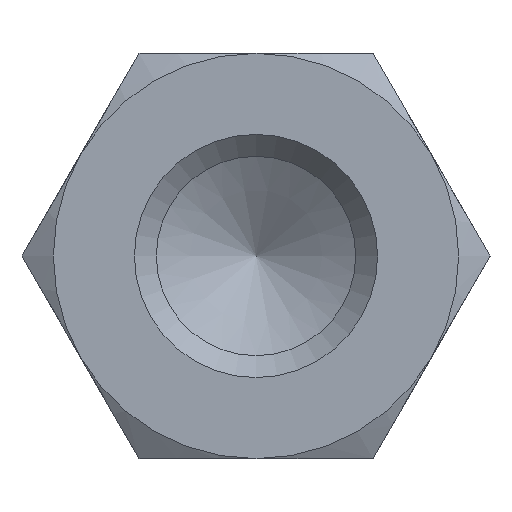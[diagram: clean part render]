
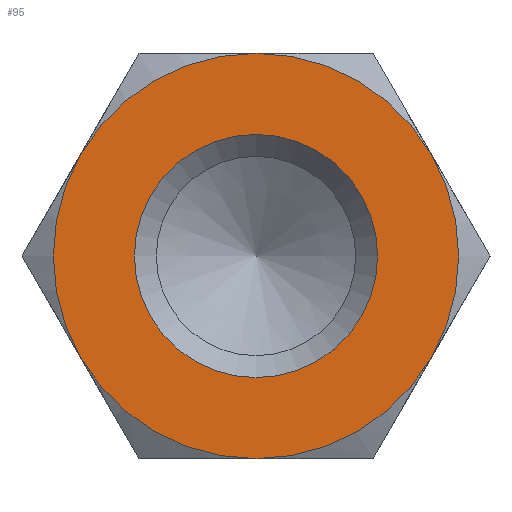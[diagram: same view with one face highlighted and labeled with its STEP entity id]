
A CAD part, left-side view. The second image highlights one B-rep face of the part: STEP entity #95.
In plain terms, the highlighted planar face has unit normal (-1, 0, 0).
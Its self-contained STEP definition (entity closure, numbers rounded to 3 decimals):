
#95 = ADVANCED_FACE( '', ( #147, #148 ), #149, .F. );
#147 = FACE_OUTER_BOUND( '', #206, .T. );
#148 = FACE_BOUND( '', #207, .T. );
#149 = PLANE( '', #208 );
#206 = EDGE_LOOP( '', ( #356, #357, #358, #359, #360, #361 ) );
#207 = EDGE_LOOP( '', ( #362 ) );
#208 = AXIS2_PLACEMENT_3D( '', #363, #364, #365 );
#356 = ORIENTED_EDGE( '', *, *, #440, .F. );
#357 = ORIENTED_EDGE( '', *, *, #425, .F. );
#358 = ORIENTED_EDGE( '', *, *, #441, .F. );
#359 = ORIENTED_EDGE( '', *, *, #437, .F. );
#360 = ORIENTED_EDGE( '', *, *, #442, .F. );
#361 = ORIENTED_EDGE( '', *, *, #443, .F. );
#362 = ORIENTED_EDGE( '', *, *, #439, .T. );
#363 = CARTESIAN_POINT( '', ( -40., 0., 0. ) );
#364 = DIRECTION( '', ( 1., 0., 0. ) );
#365 = DIRECTION( '', ( 0., 0., -1. ) );
#425 = EDGE_CURVE( '', #495, #493, #497, .T. );
#437 = EDGE_CURVE( '', #447, #506, #513, .T. );
#439 = EDGE_CURVE( '', #516, #516, #517, .T. );
#440 = EDGE_CURVE( '', #493, #486, #518, .T. );
#441 = EDGE_CURVE( '', #506, #495, #519, .T. );
#442 = EDGE_CURVE( '', #481, #447, #520, .T. );
#443 = EDGE_CURVE( '', #486, #481, #521, .T. );
#447 = VERTEX_POINT( '', #525 );
#481 = VERTEX_POINT( '', #601 );
#486 = VERTEX_POINT( '', #617 );
#493 = VERTEX_POINT( '', #642 );
#495 = VERTEX_POINT( '', #647 );
#497 = CIRCLE( '', #654, 5. );
#506 = VERTEX_POINT( '', #680 );
#513 = CIRCLE( '', #717, 5. );
#516 = VERTEX_POINT( '', #720 );
#517 = CIRCLE( '', #721, 3. );
#518 = CIRCLE( '', #722, 5. );
#519 = CIRCLE( '', #723, 5. );
#520 = CIRCLE( '', #724, 5. );
#521 = CIRCLE( '', #725, 5. );
#525 = CARTESIAN_POINT( '', ( -40., -4.33, 2.5 ) );
#601 = CARTESIAN_POINT( '', ( -40., 0., 5. ) );
#617 = CARTESIAN_POINT( '', ( -40., 4.33, 2.5 ) );
#642 = CARTESIAN_POINT( '', ( -40., 4.33, -2.5 ) );
#647 = CARTESIAN_POINT( '', ( -40., 0., -5. ) );
#654 = AXIS2_PLACEMENT_3D( '', #760, #761, #762 );
#680 = CARTESIAN_POINT( '', ( -40., -4.33, -2.5 ) );
#717 = AXIS2_PLACEMENT_3D( '', #765, #766, #767 );
#720 = CARTESIAN_POINT( '', ( -40., 3., 0. ) );
#721 = AXIS2_PLACEMENT_3D( '', #771, #772, #773 );
#722 = AXIS2_PLACEMENT_3D( '', #774, #775, #776 );
#723 = AXIS2_PLACEMENT_3D( '', #777, #778, #779 );
#724 = AXIS2_PLACEMENT_3D( '', #780, #781, #782 );
#725 = AXIS2_PLACEMENT_3D( '', #783, #784, #785 );
#760 = CARTESIAN_POINT( '', ( -40., 0., 0. ) );
#761 = DIRECTION( '', ( 1., 0., 0. ) );
#762 = DIRECTION( '', ( 0., 0., -1. ) );
#765 = CARTESIAN_POINT( '', ( -40., 0., 0. ) );
#766 = DIRECTION( '', ( 1., 0., 0. ) );
#767 = DIRECTION( '', ( 0., 0., -1. ) );
#771 = CARTESIAN_POINT( '', ( -40., 0., 0. ) );
#772 = DIRECTION( '', ( 1., 0., 0. ) );
#773 = DIRECTION( '', ( 0., 1., 0. ) );
#774 = CARTESIAN_POINT( '', ( -40., 0., 0. ) );
#775 = DIRECTION( '', ( 1., 0., 0. ) );
#776 = DIRECTION( '', ( 0., 0., -1. ) );
#777 = CARTESIAN_POINT( '', ( -40., 0., 0. ) );
#778 = DIRECTION( '', ( 1., 0., 0. ) );
#779 = DIRECTION( '', ( 0., 0., -1. ) );
#780 = CARTESIAN_POINT( '', ( -40., 0., 0. ) );
#781 = DIRECTION( '', ( 1., 0., 0. ) );
#782 = DIRECTION( '', ( 0., 0., -1. ) );
#783 = CARTESIAN_POINT( '', ( -40., 0., 0. ) );
#784 = DIRECTION( '', ( 1., 0., 0. ) );
#785 = DIRECTION( '', ( 0., 0., -1. ) );
